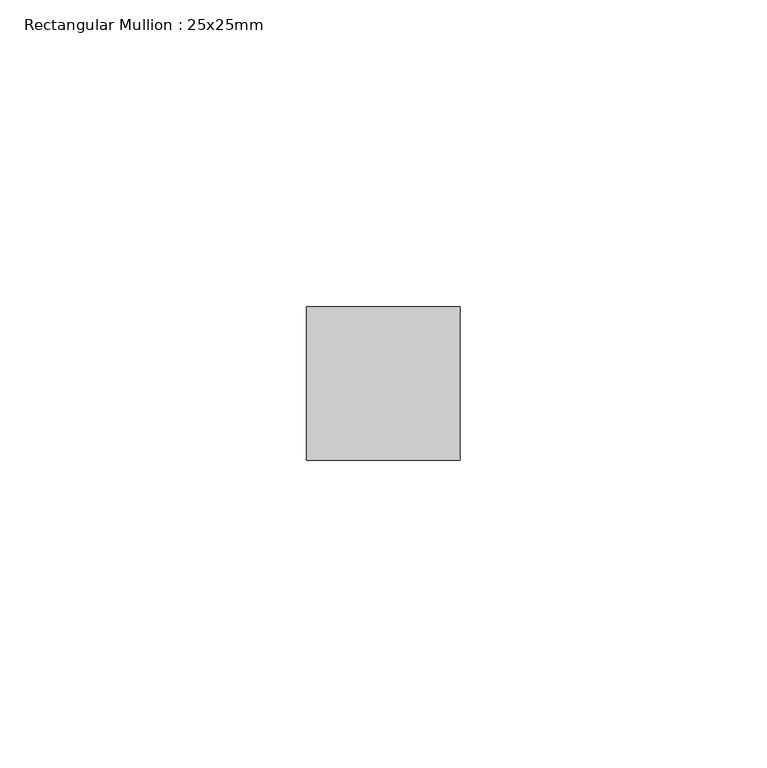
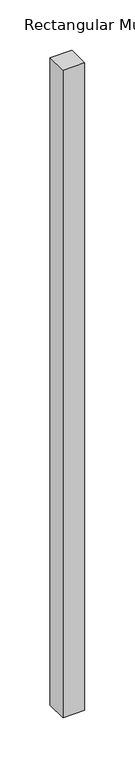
"""IFC4 building model written with IfcOpenShell, lengths in millimetres: member geometry, Rectangular Mullion : 25x25mm."""

from ifc_helpers import new_model, si_unit, frame, origin, place, context, project, spatial, polyline, outline, extrude, source, transform, mapped, element, save


def rectangular_mullion_25x25mm_42a5222e(model_context):
    return source(origin(), model_context, "Body", "SweptSolid", [
        extrude(outline(polyline([(12.5, 0.5), (12.5, -24.5), (-12.5, -24.5), (-12.5, 0.5), (12.5, 0.5)])), frame((0.0, 0.0, -783.3333336), z_axis=(0.0, 0.0, 1.0), x_axis=(1.0, 0.0, 0.0)), (0.0, 0.0, 1.0), 783.3333336),
    ])


if __name__ == "__main__":
    model = new_model("IFC4")
    model_context = context("Model", 3, world=origin())
    ifc_project = project(units=[si_unit("LENGTHUNIT", "METRE", prefix="MILLI")], contexts=[model_context])
    site = spatial("IfcSite", under=ifc_project)
    building = spatial("IfcBuilding", under=site)
    placement = place(None, origin())
    rectangular_mullion_25x25mm_shape = rectangular_mullion_25x25mm_42a5222e(model_context)
    element("IfcMember", 1, ObjectType="Rectangular Mullion : 25x25mm", at=placement, inside=building, context=model_context, shape_type="MappedRepresentation", body=[
        mapped(rectangular_mullion_25x25mm_shape, transform((0.0, 0.0, 0.0), x_axis=(1.0, 0.0, 0.0), y_axis=(0.0, 1.0, 0.0), z_axis=(0.0, 0.0, 1.0))),
    ])
    save(model, "model.ifc")
